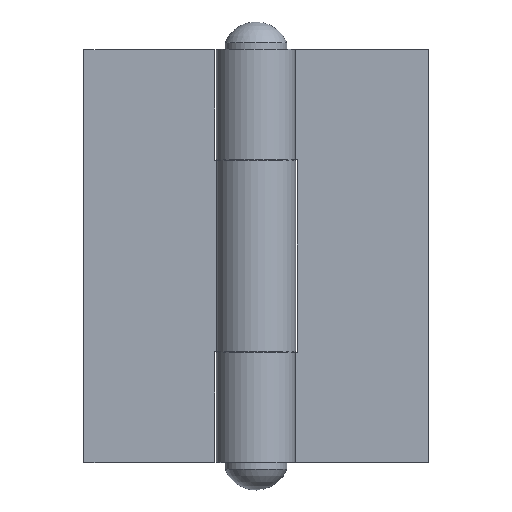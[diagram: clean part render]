
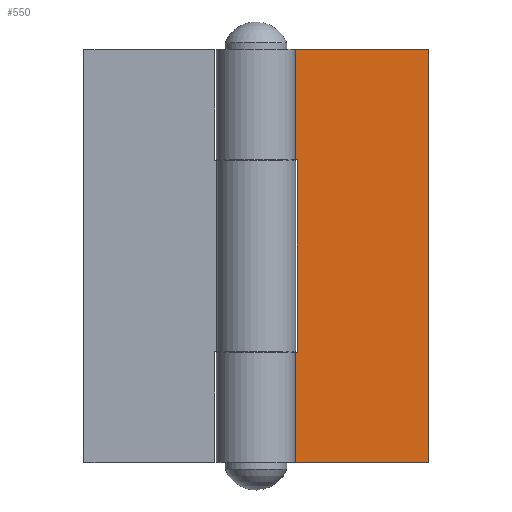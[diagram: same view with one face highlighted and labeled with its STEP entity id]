
A CAD part, top view. The second image highlights one B-rep face of the part: STEP entity #550.
In plain terms, the highlighted planar face has unit normal (0, 0, 1) as drawn and (0, 1, 0) by its records, which use the part's own axes.
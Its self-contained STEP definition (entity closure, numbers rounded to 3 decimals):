
#65=FACE_OUTER_BOUND('',#98,.T.);
#98=EDGE_LOOP('',(#464,#465,#466,#467,#468,#469,#470,#471));
#144=LINE('',#861,#198);
#146=LINE('',#867,#200);
#150=LINE('',#879,#204);
#160=LINE('',#901,#214);
#162=LINE('',#907,#216);
#164=LINE('',#911,#218);
#165=LINE('',#912,#219);
#166=LINE('',#913,#220);
#198=VECTOR('',#690,6.);
#200=VECTOR('',#696,28.);
#204=VECTOR('',#706,6.);
#214=VECTOR('',#726,16.);
#216=VECTOR('',#732,60.);
#218=VECTOR('',#736,16.);
#219=VECTOR('',#737,25.);
#220=VECTOR('',#738,25.);
#265=VERTEX_POINT('',#858);
#266=VERTEX_POINT('',#860);
#268=VERTEX_POINT('',#866);
#273=VERTEX_POINT('',#877);
#280=VERTEX_POINT('',#900);
#281=VERTEX_POINT('',#904);
#282=VERTEX_POINT('',#906);
#283=VERTEX_POINT('',#910);
#325=EDGE_CURVE('',#266,#265,#144,.T.);
#328=EDGE_CURVE('',#265,#268,#146,.T.);
#334=EDGE_CURVE('',#268,#273,#150,.T.);
#345=EDGE_CURVE('',#266,#280,#160,.T.);
#348=EDGE_CURVE('',#282,#281,#162,.T.);
#350=EDGE_CURVE('',#283,#273,#164,.T.);
#351=EDGE_CURVE('',#282,#283,#165,.T.);
#352=EDGE_CURVE('',#280,#281,#166,.T.);
#464=ORIENTED_EDGE('',*,*,#334,.T.);
#465=ORIENTED_EDGE('',*,*,#350,.F.);
#466=ORIENTED_EDGE('',*,*,#351,.F.);
#467=ORIENTED_EDGE('',*,*,#348,.T.);
#468=ORIENTED_EDGE('',*,*,#352,.F.);
#469=ORIENTED_EDGE('',*,*,#345,.F.);
#470=ORIENTED_EDGE('',*,*,#325,.T.);
#471=ORIENTED_EDGE('',*,*,#328,.T.);
#524=PLANE('',#598);
#550=ADVANCED_FACE('',(#65),#524,.T.);
#598=AXIS2_PLACEMENT_3D('',#909,#734,#735);
#690=DIRECTION('',(-1.,0.,0.));
#696=DIRECTION('',(0.,0.,-1.));
#706=DIRECTION('',(1.,0.,0.));
#726=DIRECTION('',(0.,0.,1.));
#732=DIRECTION('',(0.,0.,1.));
#734=DIRECTION('center_axis',(0.,1.,0.));
#735=DIRECTION('ref_axis',(-1.,0.,0.));
#736=DIRECTION('',(0.,0.,1.));
#737=DIRECTION('',(1.,0.,0.));
#738=DIRECTION('',(-1.,0.,0.));
#858=CARTESIAN_POINT('',(-6.,2.3,14.));
#860=CARTESIAN_POINT('',(0.,2.3,14.));
#861=CARTESIAN_POINT('',(-3.,2.3,14.));
#866=CARTESIAN_POINT('',(-6.,2.3,-14.));
#867=CARTESIAN_POINT('',(-6.,2.3,-7.));
#877=CARTESIAN_POINT('',(0.,2.3,-14.));
#879=CARTESIAN_POINT('',(2.875,2.3,-14.));
#900=CARTESIAN_POINT('',(0.,2.3,30.));
#901=CARTESIAN_POINT('',(0.,2.3,0.));
#904=CARTESIAN_POINT('',(-25.,2.3,30.));
#906=CARTESIAN_POINT('',(-25.,2.3,-30.));
#907=CARTESIAN_POINT('',(-25.,2.3,0.));
#909=CARTESIAN_POINT('Origin',(0.,2.3,0.));
#910=CARTESIAN_POINT('',(0.,2.3,-30.));
#911=CARTESIAN_POINT('',(0.,2.3,0.));
#912=CARTESIAN_POINT('',(0.,2.3,-30.));
#913=CARTESIAN_POINT('',(0.,2.3,30.));
